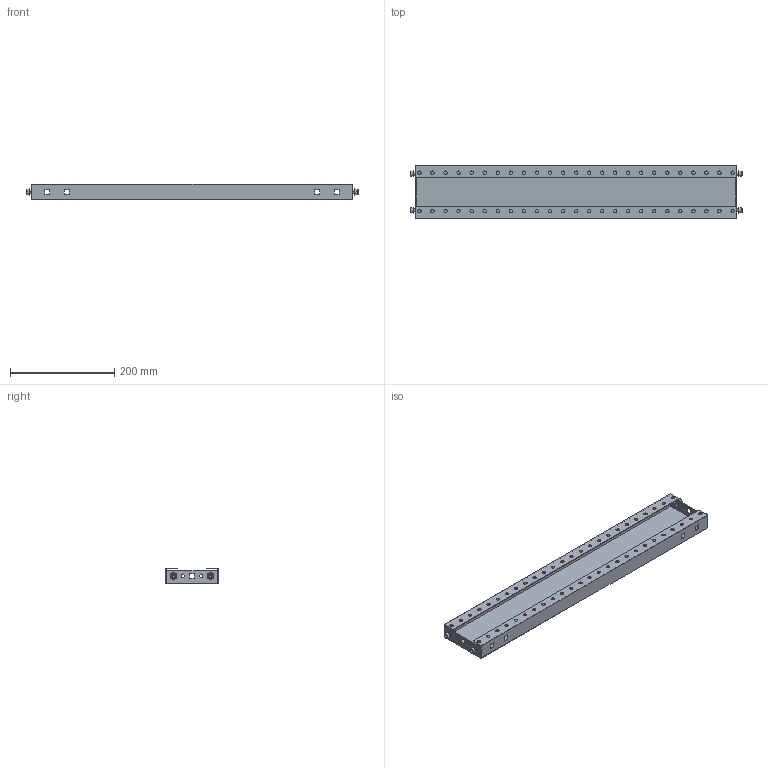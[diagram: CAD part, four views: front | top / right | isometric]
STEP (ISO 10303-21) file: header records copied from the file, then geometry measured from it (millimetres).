
FILE_DESCRIPTION(('Open CASCADE Model'),'2;1');
FILE_NAME('Open CASCADE Shape Model','2025-02-07T17:53:34',('Author'),( 'Open CASCADE'),'Open CASCADE STEP processor 7.8','Open CASCADE 7.8' ,'Unknown');
FILE_SCHEMA(('AUTOMOTIVE_DESIGN { 1 0 10303 214 1 1 1 1 }'));
Length unit declared in the file: millimetre
Products named in the file (5): Compound1; Solid1; Solid2; Solid3; Solid4
Assembly tree (13 placements, depth 2):
  Compound1
    Solid1
    Solid2  x4
    Solid3  x4
    Solid4  x4
Bounding box: 636.2 x 100 x 30 mm (x, y, z)
Volume: 192426.5 mm3; surface area: 261178.8 mm2
Topology: 13 solids, 13 shells, 736 faces, 2054 edges, 1336 vertices
Faces by surface type: plane 378, cylinder 294, cone 32, bspline 16, torus 16
Full cylindrical faces by diameter (mm): 5.5 x4, 6.5 x50
Entity records: 23938 total; most frequent: CARTESIAN_POINT 15764, ORIENTED_EDGE 1716, DIRECTION 1564, EDGE_CURVE 858, VERTEX_POINT 565, AXIS2_PLACEMENT_3D 527, LINE 510, VECTOR 510
